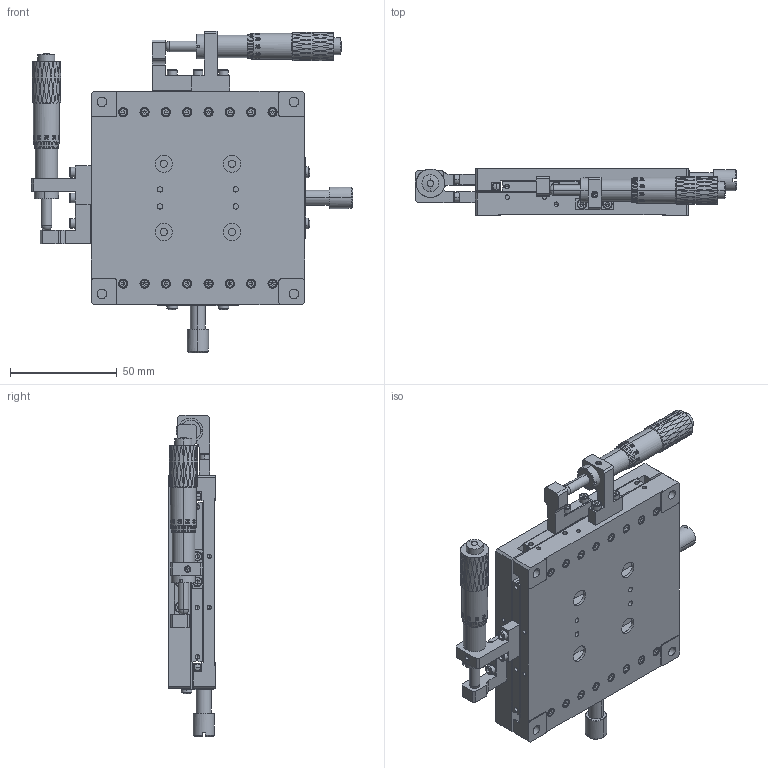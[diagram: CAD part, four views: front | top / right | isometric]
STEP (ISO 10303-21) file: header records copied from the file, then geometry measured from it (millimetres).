
FILE_DESCRIPTION (( 'STEP AP203' ), '1' );
FILE_NAME ('BPBB100.STEP', '2024-01-09T01:23:31', ( 'China' ), ( 'Microsoft' ), 'SwSTEP 2.0', 'SolidWorks 2024', '' );
FILE_SCHEMA (( 'CONFIG_CONTROL_DESIGN' ));
Length unit declared in the file: millimetre
Products named in the file (1): BPBB100
Bounding box: 150.5 x 22 x 150.5 mm (x, y, z)
Volume: 206548 mm3; surface area: 120980 mm2
Topology: 68 solids, 68 shells, 4164 faces, 10302 edges, 6491 vertices
Faces by surface type: plane 1190, cylinder 1138, bspline 1126, cone 582, torus 116, sphere 12
Entity records: 208820 total; most frequent: CARTESIAN_POINT 120253, ORIENTED_EDGE 20264, DIRECTION 14775, EDGE_CURVE 10132, VERTEX_POINT 6491, AXIS2_PLACEMENT_3D 5751, EDGE_LOOP 4827, FACE_OUTER_BOUND 4164
